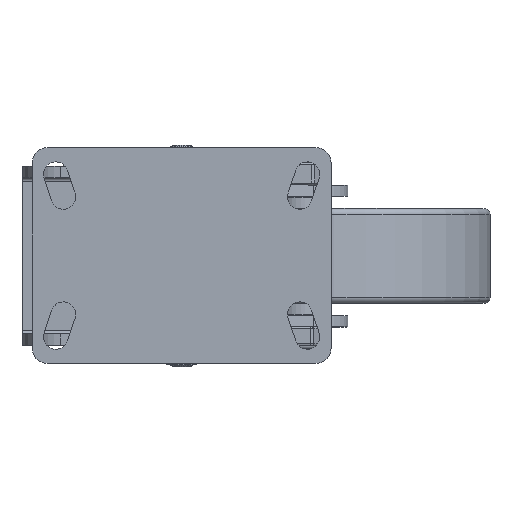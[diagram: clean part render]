
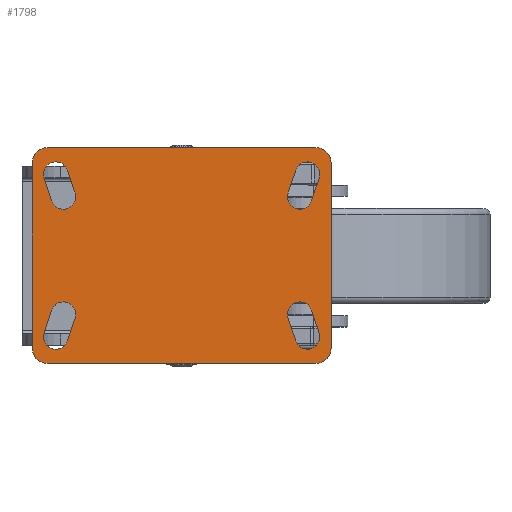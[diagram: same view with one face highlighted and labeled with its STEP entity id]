
A CAD part, top view. The second image highlights one B-rep face of the part: STEP entity #1798.
In plain terms, the highlighted planar face has unit normal (0, 0, 1).
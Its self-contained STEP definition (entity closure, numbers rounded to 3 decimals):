
#1798=ADVANCED_FACE('',(#3070,#3071,#3072,#3073,#3074),#2355,.T.);
#2355=PLANE('',#14890);
#3070=FACE_BOUND('',#3552,.T.);
#3071=FACE_BOUND('',#3553,.T.);
#3072=FACE_BOUND('',#3554,.T.);
#3073=FACE_BOUND('',#3555,.T.);
#3074=FACE_BOUND('',#3556,.T.);
#3552=EDGE_LOOP('',(#7686,#7687,#7688,#7689,#7690,#7691,#7692,#7693));
#3553=EDGE_LOOP('',(#7694,#7695,#7696,#7697));
#3554=EDGE_LOOP('',(#7698,#7699,#7700,#7701));
#3555=EDGE_LOOP('',(#7702,#7703,#7704,#7705));
#3556=EDGE_LOOP('',(#7706,#7707,#7708,#7709));
#4462=LINE('',#26361,#5369);
#4465=LINE('',#26371,#5372);
#4469=LINE('',#26383,#5376);
#4473=LINE('',#26395,#5380);
#4480=LINE('',#26417,#5387);
#4483=LINE('',#26426,#5390);
#4487=LINE('',#26435,#5394);
#4491=LINE('',#26447,#5398);
#4495=LINE('',#26459,#5402);
#4499=LINE('',#26471,#5406);
#4504=LINE('',#26489,#5411);
#4506=LINE('',#26497,#5413);
#5369=VECTOR('',#17432,1.);
#5372=VECTOR('',#17443,1.);
#5376=VECTOR('',#17455,1.);
#5380=VECTOR('',#17467,1.);
#5387=VECTOR('',#17488,1.);
#5390=VECTOR('',#17499,1.);
#5394=VECTOR('',#17505,1.);
#5398=VECTOR('',#17517,1.);
#5402=VECTOR('',#17529,1.);
#5406=VECTOR('',#17541,1.);
#5411=VECTOR('',#17560,1.);
#5413=VECTOR('',#17570,1.);
#7686=ORIENTED_EDGE('',*,*,#12314,.T.);
#7687=ORIENTED_EDGE('',*,*,#12318,.T.);
#7688=ORIENTED_EDGE('',*,*,#12319,.T.);
#7689=ORIENTED_EDGE('',*,*,#12323,.T.);
#7690=ORIENTED_EDGE('',*,*,#12325,.F.);
#7691=ORIENTED_EDGE('',*,*,#12330,.T.);
#7692=ORIENTED_EDGE('',*,*,#12331,.F.);
#7693=ORIENTED_EDGE('',*,*,#12334,.T.);
#7694=ORIENTED_EDGE('',*,*,#12369,.T.);
#7695=ORIENTED_EDGE('',*,*,#12366,.T.);
#7696=ORIENTED_EDGE('',*,*,#12363,.T.);
#7697=ORIENTED_EDGE('',*,*,#12371,.T.);
#7698=ORIENTED_EDGE('',*,*,#12357,.T.);
#7699=ORIENTED_EDGE('',*,*,#12354,.T.);
#7700=ORIENTED_EDGE('',*,*,#12351,.T.);
#7701=ORIENTED_EDGE('',*,*,#12359,.T.);
#7702=ORIENTED_EDGE('',*,*,#12345,.T.);
#7703=ORIENTED_EDGE('',*,*,#12342,.T.);
#7704=ORIENTED_EDGE('',*,*,#12339,.T.);
#7705=ORIENTED_EDGE('',*,*,#12347,.T.);
#7706=ORIENTED_EDGE('',*,*,#12375,.T.);
#7707=ORIENTED_EDGE('',*,*,#12378,.T.);
#7708=ORIENTED_EDGE('',*,*,#12381,.T.);
#7709=ORIENTED_EDGE('',*,*,#12382,.T.);
#10674=VERTEX_POINT('',#26360);
#10675=VERTEX_POINT('',#26362);
#10677=VERTEX_POINT('',#26368);
#10678=VERTEX_POINT('',#26372);
#10680=VERTEX_POINT('',#26378);
#10682=VERTEX_POINT('',#26384);
#10685=VERTEX_POINT('',#26392);
#10686=VERTEX_POINT('',#26396);
#10689=VERTEX_POINT('',#26406);
#10691=VERTEX_POINT('',#26410);
#10693=VERTEX_POINT('',#26415);
#10695=VERTEX_POINT('',#26421);
#10697=VERTEX_POINT('',#26430);
#10699=VERTEX_POINT('',#26434);
#10701=VERTEX_POINT('',#26439);
#10703=VERTEX_POINT('',#26445);
#10705=VERTEX_POINT('',#26454);
#10707=VERTEX_POINT('',#26458);
#10709=VERTEX_POINT('',#26463);
#10711=VERTEX_POINT('',#26469);
#10713=VERTEX_POINT('',#26478);
#10715=VERTEX_POINT('',#26482);
#10717=VERTEX_POINT('',#26488);
#10719=VERTEX_POINT('',#26494);
#12314=EDGE_CURVE('',#10675,#10674,#4462,.T.);
#12318=EDGE_CURVE('',#10674,#10677,#13861,.T.);
#12319=EDGE_CURVE('',#10677,#10678,#4465,.T.);
#12323=EDGE_CURVE('',#10678,#10680,#13862,.T.);
#12325=EDGE_CURVE('',#10682,#10680,#4469,.T.);
#12330=EDGE_CURVE('',#10682,#10685,#13865,.T.);
#12331=EDGE_CURVE('',#10686,#10685,#4473,.T.);
#12334=EDGE_CURVE('',#10686,#10675,#13866,.T.);
#12339=EDGE_CURVE('',#10689,#10691,#13869,.T.);
#12342=EDGE_CURVE('',#10693,#10689,#4480,.T.);
#12345=EDGE_CURVE('',#10695,#10693,#13871,.T.);
#12347=EDGE_CURVE('',#10691,#10695,#4483,.T.);
#12351=EDGE_CURVE('',#10697,#10699,#4487,.T.);
#12354=EDGE_CURVE('',#10701,#10697,#13873,.T.);
#12357=EDGE_CURVE('',#10703,#10701,#4491,.T.);
#12359=EDGE_CURVE('',#10699,#10703,#13875,.T.);
#12363=EDGE_CURVE('',#10705,#10707,#4495,.T.);
#12366=EDGE_CURVE('',#10709,#10705,#13877,.T.);
#12369=EDGE_CURVE('',#10711,#10709,#4499,.T.);
#12371=EDGE_CURVE('',#10707,#10711,#13879,.T.);
#12375=EDGE_CURVE('',#10713,#10715,#13881,.T.);
#12378=EDGE_CURVE('',#10715,#10717,#4504,.T.);
#12381=EDGE_CURVE('',#10717,#10719,#13883,.T.);
#12382=EDGE_CURVE('',#10719,#10713,#4506,.T.);
#13861=CIRCLE('',#14845,8.);
#13862=CIRCLE('',#14848,8.);
#13865=CIRCLE('',#14853,8.);
#13866=CIRCLE('',#14856,8.);
#13869=CIRCLE('',#14860,6.5);
#13871=CIRCLE('',#14864,6.5);
#13873=CIRCLE('',#14869,6.5);
#13875=CIRCLE('',#14873,6.5);
#13877=CIRCLE('',#14877,6.5);
#13879=CIRCLE('',#14881,6.5);
#13881=CIRCLE('',#14884,6.5);
#13883=CIRCLE('',#14888,6.5);
#14845=AXIS2_PLACEMENT_3D('',#26369,#17439,#17440);
#14848=AXIS2_PLACEMENT_3D('',#26380,#17449,#17450);
#14853=AXIS2_PLACEMENT_3D('',#26393,#17463,#17464);
#14856=AXIS2_PLACEMENT_3D('',#26401,#17472,#17473);
#14860=AXIS2_PLACEMENT_3D('',#26411,#17482,#17483);
#14864=AXIS2_PLACEMENT_3D('',#26423,#17494,#17495);
#14869=AXIS2_PLACEMENT_3D('',#26441,#17511,#17512);
#14873=AXIS2_PLACEMENT_3D('',#26450,#17522,#17523);
#14877=AXIS2_PLACEMENT_3D('',#26465,#17535,#17536);
#14881=AXIS2_PLACEMENT_3D('',#26474,#17546,#17547);
#14884=AXIS2_PLACEMENT_3D('',#26483,#17554,#17555);
#14888=AXIS2_PLACEMENT_3D('',#26495,#17566,#17567);
#14890=AXIS2_PLACEMENT_3D('',#26498,#17571,#17572);
#17432=DIRECTION('',(1.,0.,0.));
#17439=DIRECTION('',(0.,0.,1.));
#17440=DIRECTION('',(0.,-1.,0.));
#17443=DIRECTION('',(0.,1.,0.));
#17449=DIRECTION('',(0.,0.,1.));
#17450=DIRECTION('',(1.,0.,0.));
#17455=DIRECTION('',(1.,0.,0.));
#17463=DIRECTION('',(0.,0.,1.));
#17464=DIRECTION('',(0.,1.,0.));
#17467=DIRECTION('',(0.,1.,0.));
#17472=DIRECTION('',(0.,0.,1.));
#17473=DIRECTION('',(-1.,0.,0.));
#17482=DIRECTION('',(0.,0.,-1.));
#17483=DIRECTION('',(-0.949,0.316,0.));
#17488=DIRECTION('',(0.316,0.949,0.));
#17494=DIRECTION('',(0.,0.,-1.));
#17495=DIRECTION('',(0.949,-0.316,0.));
#17499=DIRECTION('',(-0.316,-0.949,0.));
#17505=DIRECTION('',(-0.316,0.949,0.));
#17511=DIRECTION('',(0.,0.,-1.));
#17512=DIRECTION('',(0.949,0.316,0.));
#17517=DIRECTION('',(0.316,-0.949,0.));
#17522=DIRECTION('',(0.,0.,-1.));
#17523=DIRECTION('',(-0.949,-0.316,0.));
#17529=DIRECTION('',(0.316,-0.949,0.));
#17535=DIRECTION('',(0.,0.,-1.));
#17536=DIRECTION('',(-0.949,-0.316,0.));
#17541=DIRECTION('',(-0.316,0.949,0.));
#17546=DIRECTION('',(0.,0.,-1.));
#17547=DIRECTION('',(0.949,0.316,0.));
#17554=DIRECTION('',(0.,0.,-1.));
#17555=DIRECTION('',(-0.949,0.316,0.));
#17560=DIRECTION('',(-0.316,-0.949,0.));
#17566=DIRECTION('',(0.,0.,-1.));
#17567=DIRECTION('',(0.949,-0.316,0.));
#17570=DIRECTION('',(0.316,0.949,0.));
#17571=DIRECTION('',(0.,0.,1.));
#17572=DIRECTION('',(-1.,0.,0.));
#26360=CARTESIAN_POINT('',(71.,-57.,0.));
#26361=CARTESIAN_POINT('',(-71.,-57.,0.));
#26362=CARTESIAN_POINT('',(-71.,-57.,0.));
#26368=CARTESIAN_POINT('',(79.,-49.,0.));
#26369=CARTESIAN_POINT('',(71.,-49.,0.));
#26371=CARTESIAN_POINT('',(79.,-49.,0.));
#26372=CARTESIAN_POINT('',(79.,49.,0.));
#26378=CARTESIAN_POINT('',(71.,57.,0.));
#26380=CARTESIAN_POINT('',(71.,49.,0.));
#26383=CARTESIAN_POINT('',(-71.,57.,0.));
#26384=CARTESIAN_POINT('',(-71.,57.,0.));
#26392=CARTESIAN_POINT('',(-79.,49.,0.));
#26393=CARTESIAN_POINT('',(-71.,49.,0.));
#26395=CARTESIAN_POINT('',(-79.,-49.,0.));
#26396=CARTESIAN_POINT('',(-79.,-49.,0.));
#26401=CARTESIAN_POINT('',(-71.,-49.,0.));
#26406=CARTESIAN_POINT('',(60.334,45.055,0.));
#26410=CARTESIAN_POINT('',(72.666,40.945,0.));
#26411=CARTESIAN_POINT('',(66.5,43.,0.));
#26415=CARTESIAN_POINT('',(56.334,33.055,0.));
#26417=CARTESIAN_POINT('',(56.334,33.055,0.));
#26421=CARTESIAN_POINT('',(68.666,28.945,0.));
#26423=CARTESIAN_POINT('',(62.5,31.,0.));
#26426=CARTESIAN_POINT('',(72.666,40.945,0.));
#26430=CARTESIAN_POINT('',(-68.666,28.945,0.));
#26434=CARTESIAN_POINT('',(-72.666,40.945,0.));
#26435=CARTESIAN_POINT('',(-68.666,28.945,0.));
#26439=CARTESIAN_POINT('',(-56.334,33.055,0.));
#26441=CARTESIAN_POINT('',(-62.5,31.,0.));
#26445=CARTESIAN_POINT('',(-60.334,45.055,0.));
#26447=CARTESIAN_POINT('',(-60.334,45.055,0.));
#26450=CARTESIAN_POINT('',(-66.5,43.,0.));
#26454=CARTESIAN_POINT('',(68.666,-28.945,0.));
#26458=CARTESIAN_POINT('',(72.666,-40.945,0.));
#26459=CARTESIAN_POINT('',(68.666,-28.945,0.));
#26463=CARTESIAN_POINT('',(56.334,-33.055,0.));
#26465=CARTESIAN_POINT('',(62.5,-31.,0.));
#26469=CARTESIAN_POINT('',(60.334,-45.055,0.));
#26471=CARTESIAN_POINT('',(60.334,-45.055,0.));
#26474=CARTESIAN_POINT('',(66.5,-43.,0.));
#26478=CARTESIAN_POINT('',(-68.666,-28.945,0.));
#26482=CARTESIAN_POINT('',(-56.334,-33.055,0.));
#26483=CARTESIAN_POINT('',(-62.5,-31.,0.));
#26488=CARTESIAN_POINT('',(-60.334,-45.055,0.));
#26489=CARTESIAN_POINT('',(-56.334,-33.055,0.));
#26494=CARTESIAN_POINT('',(-72.666,-40.945,0.));
#26495=CARTESIAN_POINT('',(-66.5,-43.,0.));
#26497=CARTESIAN_POINT('',(-72.666,-40.945,0.));
#26498=CARTESIAN_POINT('',(-79.,-57.,0.));
